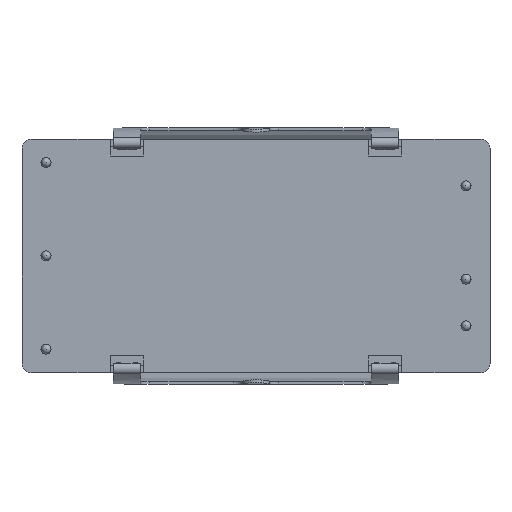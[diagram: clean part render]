
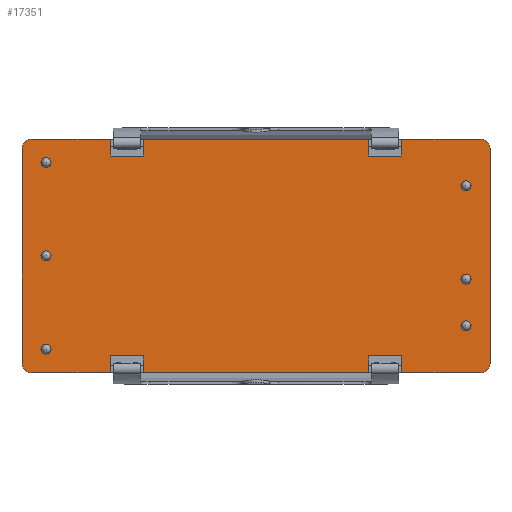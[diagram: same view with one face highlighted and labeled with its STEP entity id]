
A CAD part, top view. The second image highlights one B-rep face of the part: STEP entity #17351.
In plain terms, the highlighted planar face has unit normal (0, 0, 1).
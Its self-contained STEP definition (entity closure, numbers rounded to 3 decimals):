
#88=FACE_BOUND('',#3243,.T.);
#89=FACE_BOUND('',#3244,.T.);
#90=FACE_BOUND('',#3245,.T.);
#91=FACE_BOUND('',#3246,.T.);
#92=FACE_BOUND('',#3247,.T.);
#93=FACE_BOUND('',#3248,.T.);
#930=CIRCLE('',#19067,0.55);
#932=CIRCLE('',#19070,0.55);
#934=CIRCLE('',#19073,0.55);
#936=CIRCLE('',#19076,0.55);
#938=CIRCLE('',#19079,0.55);
#940=CIRCLE('',#19082,0.55);
#957=CIRCLE('',#19119,1.025);
#958=CIRCLE('',#19121,1.025);
#959=CIRCLE('',#19124,1.025);
#960=CIRCLE('',#19126,1.025);
#2271=FACE_OUTER_BOUND('',#3242,.T.);
#3242=EDGE_LOOP('',(#15781,#15782,#15783,#15784,#15785,#15786,#15787,#15788,
#15789,#15790,#15791,#15792,#15793,#15794,#15795,#15796,#15797,#15798,#15799,
#15800,#15801,#15802,#15803,#15804));
#3243=EDGE_LOOP('',(#15805));
#3244=EDGE_LOOP('',(#15806));
#3245=EDGE_LOOP('',(#15807));
#3246=EDGE_LOOP('',(#15808));
#3247=EDGE_LOOP('',(#15809));
#3248=EDGE_LOOP('',(#15810));
#4817=LINE('',#29472,#6473);
#4820=LINE('',#29477,#6476);
#4825=LINE('',#29486,#6481);
#4833=LINE('',#29504,#6489);
#4836=LINE('',#29509,#6492);
#4841=LINE('',#29518,#6497);
#4849=LINE('',#29535,#6505);
#4853=LINE('',#29543,#6509);
#4856=LINE('',#29548,#6512);
#4865=LINE('',#29567,#6521);
#4870=LINE('',#29577,#6526);
#4874=LINE('',#29583,#6530);
#4877=LINE('',#29589,#6533);
#4878=LINE('',#29592,#6534);
#4882=LINE('',#29598,#6538);
#4885=LINE('',#29604,#6541);
#4886=LINE('',#29607,#6542);
#4890=LINE('',#29613,#6546);
#4925=LINE('',#29759,#6581);
#4929=LINE('',#29770,#6585);
#6473=VECTOR('',#23993,3.6);
#6476=VECTOR('',#23998,1.85);
#6481=VECTOR('',#24005,1.85);
#6489=VECTOR('',#24017,3.6);
#6492=VECTOR('',#24022,1.85);
#6497=VECTOR('',#24029,1.85);
#6505=VECTOR('',#24041,1.85);
#6509=VECTOR('',#24047,3.6);
#6512=VECTOR('',#24052,1.85);
#6521=VECTOR('',#24065,1.85);
#6526=VECTOR('',#24072,1.85);
#6530=VECTOR('',#24078,3.6);
#6533=VECTOR('',#24083,8.6);
#6534=VECTOR('',#24086,8.6);
#6538=VECTOR('',#24092,24.5);
#6541=VECTOR('',#24097,8.6);
#6542=VECTOR('',#24100,8.6);
#6546=VECTOR('',#24106,24.5);
#6581=VECTOR('',#24271,23.4);
#6585=VECTOR('',#24285,23.4);
#8113=VERTEX_POINT('',#29469);
#8114=VERTEX_POINT('',#29471);
#8115=VERTEX_POINT('',#29476);
#8118=VERTEX_POINT('',#29484);
#8125=VERTEX_POINT('',#29501);
#8126=VERTEX_POINT('',#29503);
#8127=VERTEX_POINT('',#29508);
#8130=VERTEX_POINT('',#29516);
#8136=VERTEX_POINT('',#29532);
#8137=VERTEX_POINT('',#29534);
#8140=VERTEX_POINT('',#29542);
#8141=VERTEX_POINT('',#29547);
#8148=VERTEX_POINT('',#29564);
#8149=VERTEX_POINT('',#29566);
#8152=VERTEX_POINT('',#29574);
#8153=VERTEX_POINT('',#29576);
#8156=VERTEX_POINT('',#29587);
#8157=VERTEX_POINT('',#29591);
#8160=VERTEX_POINT('',#29602);
#8161=VERTEX_POINT('',#29606);
#8176=VERTEX_POINT('',#29651);
#8178=VERTEX_POINT('',#29656);
#8180=VERTEX_POINT('',#29661);
#8182=VERTEX_POINT('',#29666);
#8184=VERTEX_POINT('',#29671);
#8186=VERTEX_POINT('',#29676);
#8207=VERTEX_POINT('',#29757);
#8208=VERTEX_POINT('',#29758);
#8209=VERTEX_POINT('',#29765);
#8210=VERTEX_POINT('',#29769);
#10601=EDGE_CURVE('',#8114,#8113,#4817,.T.);
#10604=EDGE_CURVE('',#8115,#8114,#4820,.T.);
#10609=EDGE_CURVE('',#8113,#8118,#4825,.T.);
#10617=EDGE_CURVE('',#8126,#8125,#4833,.T.);
#10620=EDGE_CURVE('',#8127,#8126,#4836,.T.);
#10625=EDGE_CURVE('',#8125,#8130,#4841,.T.);
#10633=EDGE_CURVE('',#8137,#8136,#4849,.T.);
#10637=EDGE_CURVE('',#8140,#8137,#4853,.T.);
#10640=EDGE_CURVE('',#8141,#8140,#4856,.T.);
#10649=EDGE_CURVE('',#8149,#8148,#4865,.T.);
#10654=EDGE_CURVE('',#8153,#8152,#4870,.T.);
#10658=EDGE_CURVE('',#8148,#8153,#4874,.T.);
#10661=EDGE_CURVE('',#8156,#8130,#4877,.T.);
#10662=EDGE_CURVE('',#8115,#8157,#4878,.T.);
#10666=EDGE_CURVE('',#8127,#8118,#4882,.T.);
#10669=EDGE_CURVE('',#8160,#8152,#4885,.T.);
#10670=EDGE_CURVE('',#8141,#8161,#4886,.T.);
#10674=EDGE_CURVE('',#8149,#8136,#4890,.T.);
#10694=EDGE_CURVE('',#8176,#8176,#930,.T.);
#10696=EDGE_CURVE('',#8178,#8178,#932,.T.);
#10698=EDGE_CURVE('',#8180,#8180,#934,.T.);
#10700=EDGE_CURVE('',#8182,#8182,#936,.T.);
#10702=EDGE_CURVE('',#8184,#8184,#938,.T.);
#10704=EDGE_CURVE('',#8186,#8186,#940,.T.);
#10745=EDGE_CURVE('',#8207,#8208,#4925,.T.);
#10748=EDGE_CURVE('',#8208,#8156,#957,.T.);
#10749=EDGE_CURVE('',#8157,#8209,#958,.T.);
#10751=EDGE_CURVE('',#8209,#8210,#4929,.T.);
#10753=EDGE_CURVE('',#8210,#8160,#959,.T.);
#10754=EDGE_CURVE('',#8161,#8207,#960,.T.);
#15781=ORIENTED_EDGE('',*,*,#10609,.T.);
#15782=ORIENTED_EDGE('',*,*,#10666,.F.);
#15783=ORIENTED_EDGE('',*,*,#10620,.T.);
#15784=ORIENTED_EDGE('',*,*,#10617,.T.);
#15785=ORIENTED_EDGE('',*,*,#10625,.T.);
#15786=ORIENTED_EDGE('',*,*,#10661,.F.);
#15787=ORIENTED_EDGE('',*,*,#10748,.F.);
#15788=ORIENTED_EDGE('',*,*,#10745,.F.);
#15789=ORIENTED_EDGE('',*,*,#10754,.F.);
#15790=ORIENTED_EDGE('',*,*,#10670,.F.);
#15791=ORIENTED_EDGE('',*,*,#10640,.T.);
#15792=ORIENTED_EDGE('',*,*,#10637,.T.);
#15793=ORIENTED_EDGE('',*,*,#10633,.T.);
#15794=ORIENTED_EDGE('',*,*,#10674,.F.);
#15795=ORIENTED_EDGE('',*,*,#10649,.T.);
#15796=ORIENTED_EDGE('',*,*,#10658,.T.);
#15797=ORIENTED_EDGE('',*,*,#10654,.T.);
#15798=ORIENTED_EDGE('',*,*,#10669,.F.);
#15799=ORIENTED_EDGE('',*,*,#10753,.F.);
#15800=ORIENTED_EDGE('',*,*,#10751,.F.);
#15801=ORIENTED_EDGE('',*,*,#10749,.F.);
#15802=ORIENTED_EDGE('',*,*,#10662,.F.);
#15803=ORIENTED_EDGE('',*,*,#10604,.T.);
#15804=ORIENTED_EDGE('',*,*,#10601,.T.);
#15805=ORIENTED_EDGE('',*,*,#10694,.T.);
#15806=ORIENTED_EDGE('',*,*,#10696,.T.);
#15807=ORIENTED_EDGE('',*,*,#10698,.T.);
#15808=ORIENTED_EDGE('',*,*,#10700,.T.);
#15809=ORIENTED_EDGE('',*,*,#10702,.T.);
#15810=ORIENTED_EDGE('',*,*,#10704,.T.);
#16447=PLANE('',#19127);
#17351=ADVANCED_FACE('',(#2271,#88,#89,#90,#91,#92,#93),#16447,.T.);
#19067=AXIS2_PLACEMENT_3D('',#29652,#24145,#24146);
#19070=AXIS2_PLACEMENT_3D('',#29657,#24151,#24152);
#19073=AXIS2_PLACEMENT_3D('',#29662,#24157,#24158);
#19076=AXIS2_PLACEMENT_3D('',#29667,#24163,#24164);
#19079=AXIS2_PLACEMENT_3D('',#29672,#24169,#24170);
#19082=AXIS2_PLACEMENT_3D('',#29677,#24175,#24176);
#19119=AXIS2_PLACEMENT_3D('',#29763,#24276,#24277);
#19121=AXIS2_PLACEMENT_3D('',#29766,#24280,#24281);
#19124=AXIS2_PLACEMENT_3D('',#29773,#24289,#24290);
#19126=AXIS2_PLACEMENT_3D('',#29775,#24293,#24294);
#19127=AXIS2_PLACEMENT_3D('',#29776,#24295,#24296);
#23993=DIRECTION('',(1.,0.,0.));
#23998=DIRECTION('',(0.,1.,0.));
#24005=DIRECTION('',(0.,-1.,0.));
#24017=DIRECTION('',(1.,0.,0.));
#24022=DIRECTION('',(0.,1.,0.));
#24029=DIRECTION('',(0.,-1.,0.));
#24041=DIRECTION('',(0.,1.,0.));
#24047=DIRECTION('',(-1.,0.,0.));
#24052=DIRECTION('',(0.,-1.,0.));
#24065=DIRECTION('',(0.,-1.,0.));
#24072=DIRECTION('',(0.,1.,0.));
#24078=DIRECTION('',(-1.,0.,0.));
#24083=DIRECTION('',(-1.,0.,0.));
#24086=DIRECTION('',(-1.,0.,0.));
#24092=DIRECTION('',(-1.,0.,0.));
#24097=DIRECTION('',(1.,0.,0.));
#24100=DIRECTION('',(1.,0.,0.));
#24106=DIRECTION('',(1.,0.,0.));
#24145=DIRECTION('center_axis',(0.,0.,
-1.));
#24146=DIRECTION('ref_axis',(-1.,0.,0.));
#24151=DIRECTION('center_axis',(0.,0.,
-1.));
#24152=DIRECTION('ref_axis',(-1.,0.,0.));
#24157=DIRECTION('center_axis',(0.,0.,
-1.));
#24158=DIRECTION('ref_axis',(-1.,0.,0.));
#24163=DIRECTION('center_axis',(0.,0.,
-1.));
#24164=DIRECTION('ref_axis',(-1.,0.,0.));
#24169=DIRECTION('center_axis',(0.,0.,
-1.));
#24170=DIRECTION('ref_axis',(-1.,0.,0.));
#24175=DIRECTION('center_axis',(0.,0.,
-1.));
#24176=DIRECTION('ref_axis',(-1.,0.,0.));
#24271=DIRECTION('',(0.,-1.,0.));
#24276=DIRECTION('center_axis',(0.,0.,-1.));
#24277=DIRECTION('ref_axis',(0.,1.,0.));
#24280=DIRECTION('center_axis',(0.,0.,-1.));
#24281=DIRECTION('ref_axis',(1.,0.,0.));
#24285=DIRECTION('',(0.,1.,0.));
#24289=DIRECTION('center_axis',(0.,0.,-1.));
#24290=DIRECTION('ref_axis',(0.,-1.,0.));
#24293=DIRECTION('center_axis',(0.,0.,-1.));
#24294=DIRECTION('ref_axis',(-1.,0.,0.));
#24295=DIRECTION('center_axis',(0.,0.,
1.));
#24296=DIRECTION('ref_axis',(1.,0.,0.));
#29469=CARTESIAN_POINT('',(-12.25,-10.875,10.3));
#29471=CARTESIAN_POINT('',(-15.85,-10.875,10.3));
#29472=CARTESIAN_POINT('',(-6.125,-10.875,10.3));
#29476=CARTESIAN_POINT('',(-15.85,-12.725,10.3));
#29477=CARTESIAN_POINT('',(-15.85,-5.438,10.3));
#29484=CARTESIAN_POINT('',(-12.25,-12.725,10.3));
#29486=CARTESIAN_POINT('',(-12.25,-6.363,10.3));
#29501=CARTESIAN_POINT('',(15.85,-10.875,10.3));
#29503=CARTESIAN_POINT('',(12.25,-10.875,10.3));
#29504=CARTESIAN_POINT('',(7.925,-10.875,10.3));
#29508=CARTESIAN_POINT('',(12.25,-12.725,10.3));
#29509=CARTESIAN_POINT('',(12.25,-5.438,10.3));
#29516=CARTESIAN_POINT('',(15.85,-12.725,10.3));
#29518=CARTESIAN_POINT('',(15.85,-6.363,10.3));
#29532=CARTESIAN_POINT('',(12.25,12.725,10.3));
#29534=CARTESIAN_POINT('',(12.25,10.875,10.3));
#29535=CARTESIAN_POINT('',(12.25,6.363,10.3));
#29542=CARTESIAN_POINT('',(15.85,10.875,10.3));
#29543=CARTESIAN_POINT('',(6.125,10.875,10.3));
#29547=CARTESIAN_POINT('',(15.85,12.725,10.3));
#29548=CARTESIAN_POINT('',(15.85,5.438,10.3));
#29564=CARTESIAN_POINT('',(-12.25,10.875,10.3));
#29566=CARTESIAN_POINT('',(-12.25,12.725,10.3));
#29567=CARTESIAN_POINT('',(-12.25,5.438,10.3));
#29574=CARTESIAN_POINT('',(-15.85,12.725,10.3));
#29576=CARTESIAN_POINT('',(-15.85,10.875,10.3));
#29577=CARTESIAN_POINT('',(-15.85,6.363,10.3));
#29583=CARTESIAN_POINT('',(-7.925,10.875,10.3));
#29587=CARTESIAN_POINT('',(24.45,-12.725,10.3));
#29589=CARTESIAN_POINT('',(24.45,-12.725,10.3));
#29591=CARTESIAN_POINT('',(-24.45,-12.725,10.3));
#29592=CARTESIAN_POINT('',(24.45,-12.725,10.3));
#29598=CARTESIAN_POINT('',(24.45,-12.725,10.3));
#29602=CARTESIAN_POINT('',(-24.45,12.725,10.3));
#29604=CARTESIAN_POINT('',(-24.45,12.725,10.3));
#29606=CARTESIAN_POINT('',(24.45,12.725,10.3));
#29607=CARTESIAN_POINT('',(-24.45,12.725,10.3));
#29613=CARTESIAN_POINT('',(-24.45,12.725,10.3));
#29651=CARTESIAN_POINT('',(-22.31,0.,10.3));
#29652=CARTESIAN_POINT('Origin',(-22.86,0.,10.3));
#29656=CARTESIAN_POINT('',(23.41,-7.62,10.3));
#29657=CARTESIAN_POINT('Origin',(22.86,-7.62,10.3));
#29661=CARTESIAN_POINT('',(23.41,7.62,10.3));
#29662=CARTESIAN_POINT('Origin',(22.86,7.62,10.3));
#29666=CARTESIAN_POINT('',(23.41,-2.54,10.3));
#29667=CARTESIAN_POINT('Origin',(22.86,-2.54,10.3));
#29671=CARTESIAN_POINT('',(-22.31,10.16,10.3));
#29672=CARTESIAN_POINT('Origin',(-22.86,10.16,10.3));
#29676=CARTESIAN_POINT('',(-22.31,-10.16,10.3));
#29677=CARTESIAN_POINT('Origin',(-22.86,-10.16,10.3));
#29757=CARTESIAN_POINT('',(25.475,11.7,10.3));
#29758=CARTESIAN_POINT('',(25.475,-11.7,10.3));
#29759=CARTESIAN_POINT('',(25.475,11.7,10.3));
#29763=CARTESIAN_POINT('Origin',(24.45,-11.7,10.3));
#29765=CARTESIAN_POINT('',(-25.475,-11.7,10.3));
#29766=CARTESIAN_POINT('Origin',(-24.45,-11.7,10.3));
#29769=CARTESIAN_POINT('',(-25.475,11.7,10.3));
#29770=CARTESIAN_POINT('',(-25.475,-11.7,10.3));
#29773=CARTESIAN_POINT('Origin',(-24.45,11.7,10.3));
#29775=CARTESIAN_POINT('Origin',(24.45,11.7,10.3));
#29776=CARTESIAN_POINT('Origin',(0.,0.,10.3));
